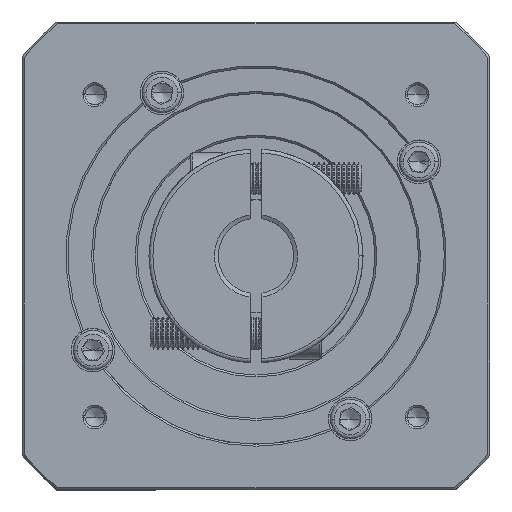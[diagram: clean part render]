
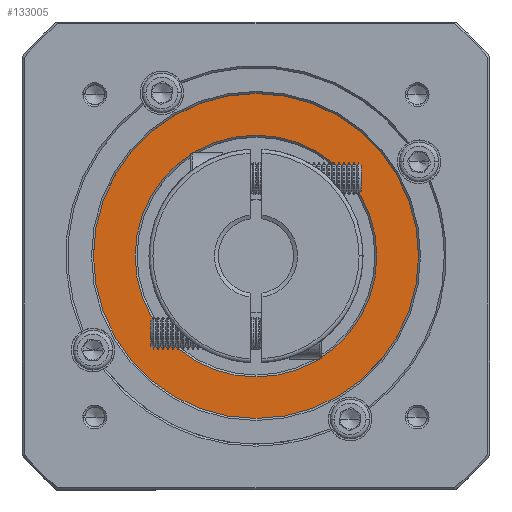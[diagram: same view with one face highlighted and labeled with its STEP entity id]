
A CAD part, top view. The second image highlights one B-rep face of the part: STEP entity #133005.
In plain terms, the highlighted planar face has unit normal (0, 0, 1).
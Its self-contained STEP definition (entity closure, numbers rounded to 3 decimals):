
#792 = DIRECTION ( 'NONE',  ( 0., 0., -1. ) ) ;
#3806 = CIRCLE ( 'NONE', #126414, 30.5 ) ;
#9997 = CARTESIAN_POINT ( 'NONE',  ( -35.246, -1.416, 219.502 ) ) ;
#12026 = VERTEX_POINT ( 'NONE', #127728 ) ;
#13956 = CARTESIAN_POINT ( 'NONE',  ( -35.246, -1.416, 219.502 ) ) ;
#14651 = DIRECTION ( 'NONE',  ( 0., 0., 1. ) ) ;
#14885 = DIRECTION ( 'NONE',  ( 0., 0., 1. ) ) ;
#23719 = ORIENTED_EDGE ( 'NONE', *, *, #134884, .T. ) ;
#24576 = DIRECTION ( 'NONE',  ( 1., 0., 0. ) ) ;
#27528 = AXIS2_PLACEMENT_3D ( 'NONE', #132010, #100783, #130202 ) ;
#33179 = EDGE_LOOP ( 'NONE', ( #23719, #110969 ) ) ;
#37627 = CIRCLE ( 'NONE', #27528, 30.5 ) ;
#37976 = EDGE_CURVE ( 'NONE', #91352, #40454, #114038, .T. ) ;
#39222 = CARTESIAN_POINT ( 'NONE',  ( 5.754, -1.416, 219.502 ) ) ;
#40454 = VERTEX_POINT ( 'NONE', #39222 ) ;
#45802 = EDGE_CURVE ( 'NONE', #40454, #91352, #100154, .T. ) ;
#60100 = VERTEX_POINT ( 'NONE', #114237 ) ;
#66194 = PLANE ( 'NONE',  #73191 ) ;
#67102 = DIRECTION ( 'NONE',  ( 1., 0., 0. ) ) ;
#73191 = AXIS2_PLACEMENT_3D ( 'NONE', #109515, #14651, #67102 ) ;
#83965 = EDGE_LOOP ( 'NONE', ( #121800, #120612 ) ) ;
#91352 = VERTEX_POINT ( 'NONE', #125133 ) ;
#96858 = DIRECTION ( 'NONE',  ( 1., 0., 0. ) ) ;
#99639 = EDGE_CURVE ( 'NONE', #12026, #60100, #37627, .T. ) ;
#100154 = CIRCLE ( 'NONE', #100301, 41. ) ;
#100301 = AXIS2_PLACEMENT_3D ( 'NONE', #13956, #14885, #24576 ) ;
#100783 = DIRECTION ( 'NONE',  ( 0., 0., -1. ) ) ;
#106990 = DIRECTION ( 'NONE',  ( 0., 0., 1. ) ) ;
#109515 = CARTESIAN_POINT ( 'NONE',  ( -35.246, -1.416, 219.502 ) ) ;
#110274 = FACE_OUTER_BOUND ( 'NONE', #83965, .T. ) ;
#110969 = ORIENTED_EDGE ( 'NONE', *, *, #99639, .T. ) ;
#114038 = CIRCLE ( 'NONE', #117584, 41. ) ;
#114237 = CARTESIAN_POINT ( 'NONE',  ( -4.746, -1.416, 219.502 ) ) ;
#117584 = AXIS2_PLACEMENT_3D ( 'NONE', #128935, #106990, #96858 ) ;
#120612 = ORIENTED_EDGE ( 'NONE', *, *, #37976, .T. ) ;
#121800 = ORIENTED_EDGE ( 'NONE', *, *, #45802, .T. ) ;
#125133 = CARTESIAN_POINT ( 'NONE',  ( -76.246, -1.416, 219.502 ) ) ;
#126414 = AXIS2_PLACEMENT_3D ( 'NONE', #9997, #792, #135596 ) ;
#127728 = CARTESIAN_POINT ( 'NONE',  ( -65.746, -1.416, 219.502 ) ) ;
#128935 = CARTESIAN_POINT ( 'NONE',  ( -35.246, -1.416, 219.502 ) ) ;
#129933 = FACE_BOUND ( 'NONE', #33179, .T. ) ;
#130202 = DIRECTION ( 'NONE',  ( 1., 0., 0. ) ) ;
#132010 = CARTESIAN_POINT ( 'NONE',  ( -35.246, -1.416, 219.502 ) ) ;
#133005 = ADVANCED_FACE ( 'NONE', ( #110274, #129933 ), #66194, .T. ) ;
#134884 = EDGE_CURVE ( 'NONE', #60100, #12026, #3806, .T. ) ;
#135596 = DIRECTION ( 'NONE',  ( 1., 0., 0. ) ) ;
